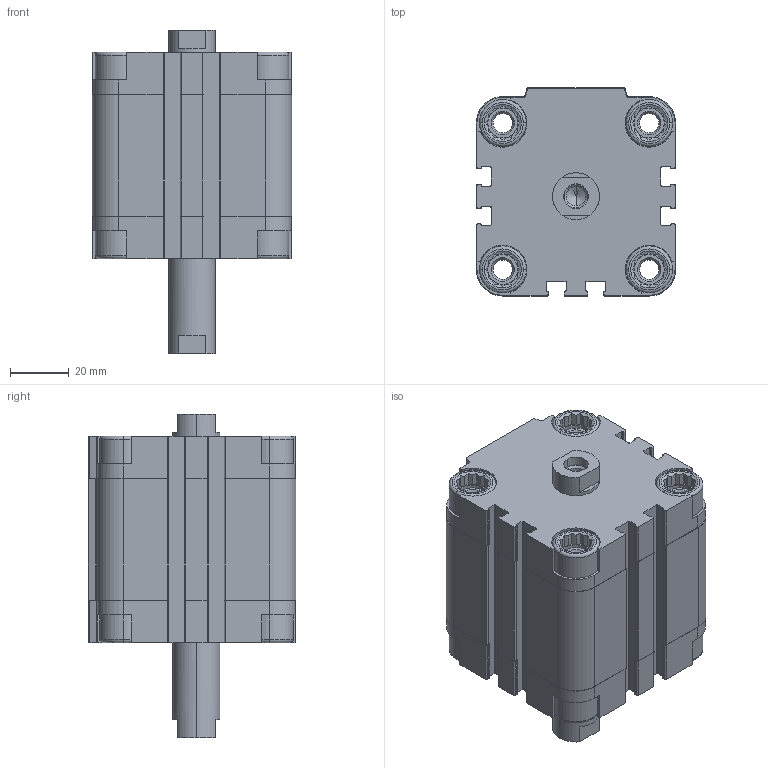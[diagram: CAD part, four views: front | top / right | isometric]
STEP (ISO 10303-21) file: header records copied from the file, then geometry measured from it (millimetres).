
FILE_DESCRIPTION (( 'STEP AP203' ), '1' );
FILE_NAME ('CDVU50-25F-P.STEP', '2020-07-24T18:36:03', ( '' ), ( '' ), 'SwSTEP 2.0', 'SolidWorks 2019', '' );
FILE_SCHEMA (( 'CONFIG_CONTROL_DESIGN' ));
Length unit declared in the file: millimetre
Products named in the file (1): CDVU50-25F-P
Bounding box: 68 x 71 x 110.5 mm (x, y, z)
Volume: 253784.8 mm3; surface area: 66226.7 mm2
Topology: 2 solids, 2 shells, 722 faces, 1928 edges, 1244 vertices
Faces by surface type: plane 422, cylinder 236, cone 48, torus 16
Entity records: 22639 total; most frequent: CARTESIAN_POINT 4463, ORIENTED_EDGE 3840, DIRECTION 3726, EDGE_CURVE 1920, AXIS2_PLACEMENT_3D 1275, VERTEX_POINT 1244, VECTOR 1176, LINE 1176
